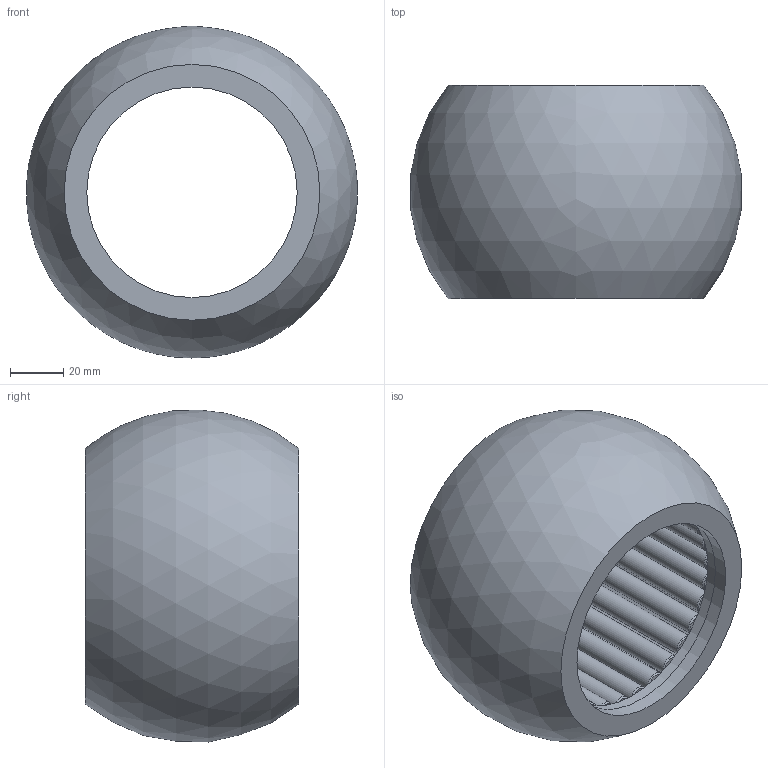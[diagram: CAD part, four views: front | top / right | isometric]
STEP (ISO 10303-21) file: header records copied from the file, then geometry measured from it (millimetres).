
FILE_DESCRIPTION(('STEP AP214'),'1');
FILE_NAME('C:/Projets/Serie 15.xx.xx/15.xx.79.step','2011-11-14T14:50:23',(' '),(' '),'Spatial InterOp 3D',' ',' ');
FILE_SCHEMA(('automotive_design'));
Length unit declared in the file: metre
Products named in the file (34): rotule; frette; @3132; @3125
Bounding box: 124.2 x 80 x 124.63 mm (x, y, z)
Volume: 408177 mm3; surface area: 167741 mm2
Topology: 34 solids, 34 shells, 416 faces, 788 edges, 504 vertices
Faces by surface type: cylinder 162, plane 132, cone 121, sphere 1
Full cylindrical faces by diameter (mm): 2.8 x60, 3.5 x60, 8 x30, 79 x2, 79.941 x1, 80 x2, 94 x2, 95 x3, 101 x2
Entity records: 12719 total; most frequent: DIRECTION 1792, CARTESIAN_POINT 1342, AXIS2_PLACEMENT_3D 896, EDGE_LOOP 892, ORIENTED_EDGE 892, FACE_OUTER_BOUND 579, EDGE_CURVE 446, VERTEX_POINT 446
